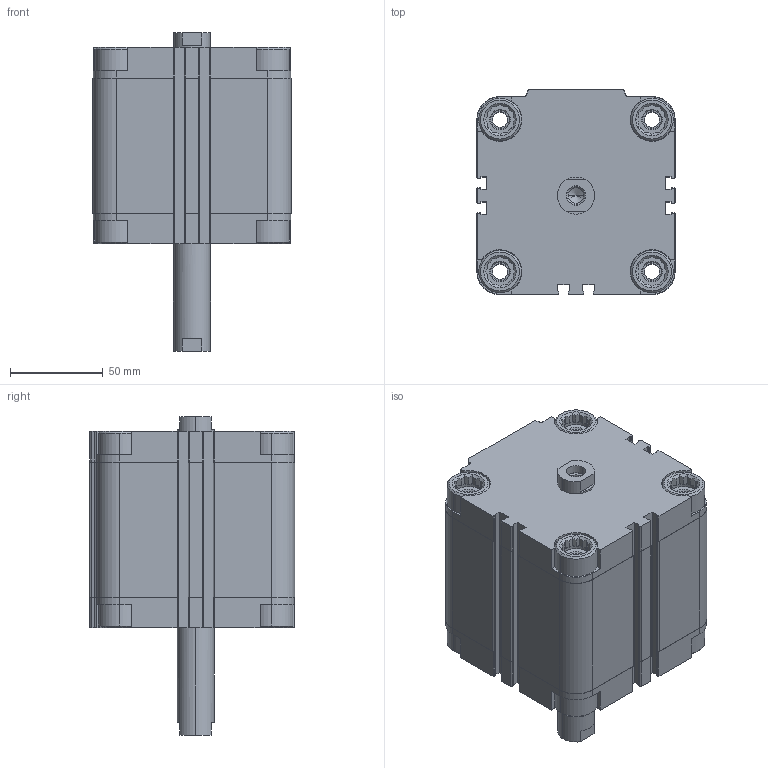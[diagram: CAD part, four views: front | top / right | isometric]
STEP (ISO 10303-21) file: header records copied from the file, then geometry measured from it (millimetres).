
FILE_DESCRIPTION (( 'STEP AP203' ), '1' );
FILE_NAME ('CDVU80-50F-P.STEP', '2020-07-24T18:40:32', ( '' ), ( '' ), 'SwSTEP 2.0', 'SolidWorks 2019', '' );
FILE_SCHEMA (( 'CONFIG_CONTROL_DESIGN' ));
Length unit declared in the file: millimetre
Products named in the file (1): CDVU80-50F-P
Bounding box: 107 x 111 x 172 mm (x, y, z)
Volume: 912711.7 mm3; surface area: 150589.9 mm2
Topology: 2 solids, 2 shells, 670 faces, 1812 edges, 1188 vertices
Faces by surface type: plane 394, cylinder 212, cone 64
Entity records: 21267 total; most frequent: CARTESIAN_POINT 4239, ORIENTED_EDGE 3608, DIRECTION 3458, EDGE_CURVE 1804, VERTEX_POINT 1188, AXIS2_PLACEMENT_3D 1175, VECTOR 1108, LINE 1108
